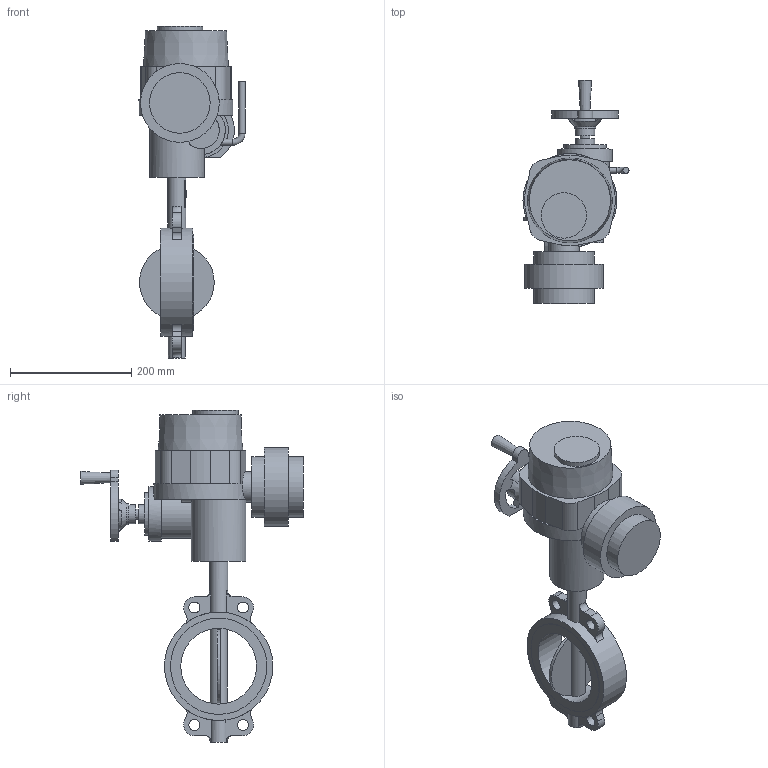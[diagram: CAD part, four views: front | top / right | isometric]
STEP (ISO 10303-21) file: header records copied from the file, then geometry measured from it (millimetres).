
FILE_DESCRIPTION(('STEP AP203'), '1');
FILE_NAME('青蜮铕 017W.Y_DN125_QT.A 010', '', ('UNSPECIFIED'), ('UNSPECIFIED'), 'ASCON STEP Converter 1.6', 'ASCON Math Kernel', '');
FILE_SCHEMA(('CONFIG_CONTROL_DESIGN'));
Length unit declared in the file: millimetre
Bounding box: 175 x 368 x 548 mm (x, y, z)
Volume: 5598095.3 mm3; surface area: 375375.5 mm2
Topology: 1 solids, 1 shells, 182 faces, 439 edges, 288 vertices
Faces by surface type: plane 102, cylinder 72, torus 5, cone 3
Full cylindrical faces by diameter (mm): 6.7 x4, 10 x6, 16 x1, 18 x4, 28 x2, 30 x1, 32 x2, 35 x1, 50 x1, 70 x1, 75 x1, 90 x2, 100 x2, 125 x1, 130 x1, 159 x2, 179 x1
Entity records: 8551 total; most frequent: CARTESIAN_POINT 2793, DIRECTION 919, ORIENTED_EDGE 804, EDGE_CURVE 402, AXIS2_PLACEMENT_3D 366, VERTEX_POINT 288, EDGE_LOOP 266, FACE_BOUND 198
